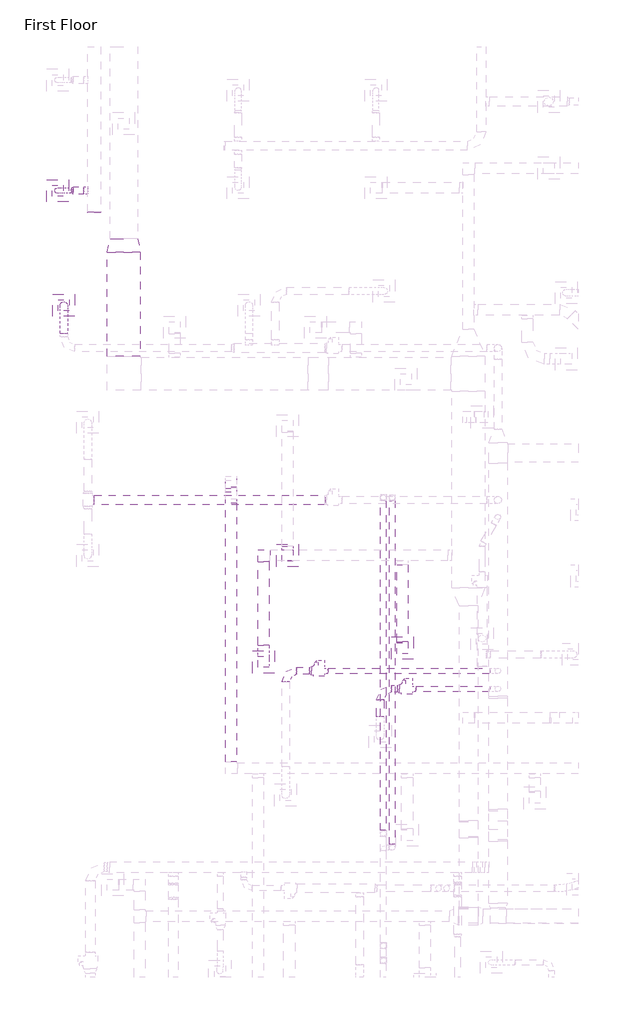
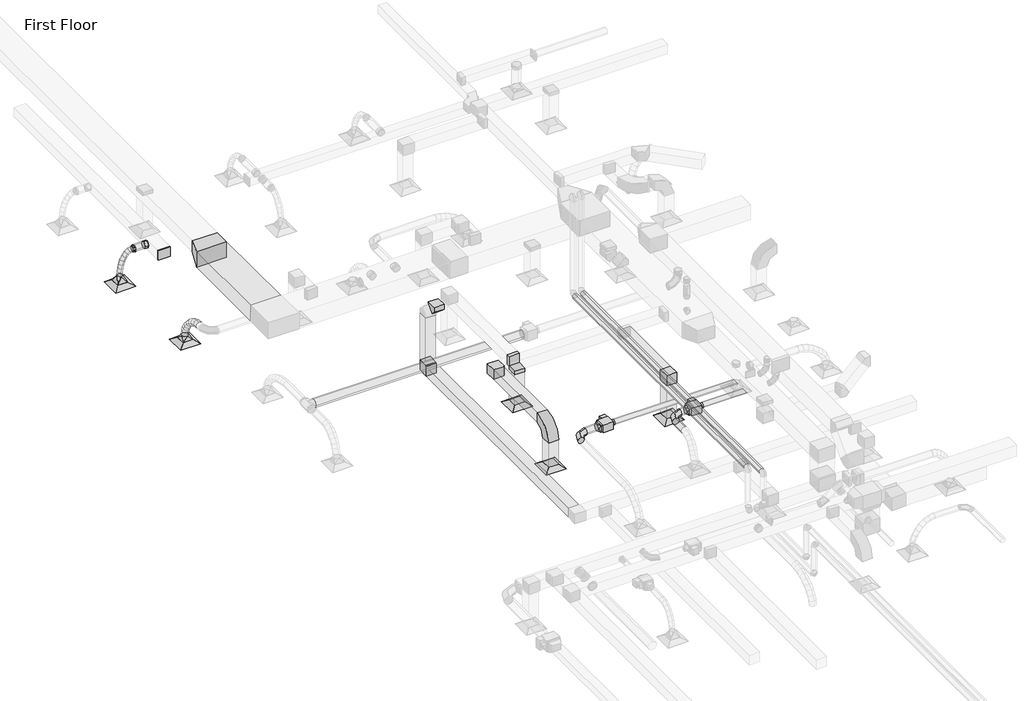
# One storey, part 10 of 61: 17 duct fittings, 17 duct segments, 5 air terminals, 2 pipe segments, 2 proxies.
"""IFC4 building model written with IfcOpenShell, lengths in millimetres."""

from ifc_helpers import new_model, si_unit, point, frame, frame_2d, origin, place, context, project, spatial, polyline, circle_curve, ellipse_curve, trimmed, segment, composite_curve, outline, extrude, transform, mapped, element, save
from ifc_brep_helpers import plane_surface, cylinder_surface, advanced_brep
from components import m_exhaust_grill_er_600_x_600_face_300_x_300_connection_ff221211, m_vav_unit_single_duct_150_mm_ffdab17b, m_rectangular_elbow_mitered_standard_b81e202c, m_rectangular_elbow_mitered_standard_8eee5933, m_rectangular_elbow_radius_1_5_w_86011e9f, m_rectangular_endcap_standard_7e805889, m_rectangular_takeoff_standard_c00386d1, m_rectangular_transition_angle_45_degree_70f4cc88, m_rectangular_to_round_transition_angle_45_degree_8f201c83, m_rectangular_to_round_transition_angle_45_degree_60daae35, m_rectangular_to_round_transition_angle_45_degree_1b7ae117, m_round_elbow_1_5_d_b7bc3624, m_round_takeoff_standard_8efdd074, m_round_transition_angle_45_degree_6d7b59ce

model = new_model("IFC4")

# Units and contexts
model_context = context("Model", 3, world=origin())
ifc_project = project(units=[si_unit("LENGTHUNIT", "METRE", prefix="MILLI")], contexts=[model_context])

# Site, building, storey
site = spatial("IfcSite", under=ifc_project)
building = spatial("IfcBuilding", under=site)
storey = spatial("IfcBuildingStorey", under=building, Name="First Floor", Elevation=0.0)

# Air terminals
placement = place(None, origin())
m_exhaust_grill_er_600_x_600_face_300_x_300_connection_shape = m_exhaust_grill_er_600_x_600_face_300_x_300_connection_ff221211(model_context)
element("IfcAirTerminal", 1, ObjectType="M_Return Register : RR-600 x 600 Face 300 x 300 Connection", at=placement, inside=storey, context=model_context, shape_type="MappedRepresentation", body=[
    mapped(m_exhaust_grill_er_600_x_600_face_300_x_300_connection_shape, transform((-44776.2515849, 20303.2476716, 2680.0), x_axis=(1.0, 0.0, 0.0), y_axis=(0.0, 1.0, 0.0), z_axis=(0.0, 0.0, 1.0))),
])
element("IfcAirTerminal", 2, ObjectType="M_Return Register : RR-600 x 600 Face 300 x 300 Connection", at=placement, inside=storey, context=model_context, shape_type="MappedRepresentation", body=[
    mapped(m_exhaust_grill_er_600_x_600_face_300_x_300_connection_shape, transform((-45425.1578689, 17419.1821686, 2680.0), x_axis=(1.0, 0.0, 0.0), y_axis=(0.0, 1.0, 0.0), z_axis=(0.0, 0.0, 1.0))),
])
element("IfcAirTerminal", 3, ObjectType="M_Return Register : RR-600 x 600 Face 300 x 300 Connection", at=placement, inside=storey, context=model_context, shape_type="MappedRepresentation", body=[
    mapped(m_exhaust_grill_er_600_x_600_face_300_x_300_connection_shape, transform((-41659.8030018, 17795.0056288, 2680.0), x_axis=(1.0, 0.0, 0.0), y_axis=(0.0, 1.0, 0.0), z_axis=(0.0, 0.0, 1.0))),
])
element("IfcAirTerminal", 4, ObjectType="M_Supply Diffuser : SD-600 x 600 Face 300 x 300 Connection", at=placement, inside=storey, context=model_context, shape_type="MappedRepresentation", body=[
    mapped(m_exhaust_grill_er_600_x_600_face_300_x_300_connection_shape, transform((-51005.4898522, 30186.5579591, 2680.0), x_axis=(1.0, 0.0, 0.0), y_axis=(0.0, 1.0, 0.0), z_axis=(0.0, 0.0, 1.0))),
])
element("IfcAirTerminal", 5, ObjectType="M_Supply Diffuser : SD-600 x 600 Face 300 x 300 Connection", at=placement, inside=storey, context=model_context, shape_type="MappedRepresentation", body=[
    mapped(m_exhaust_grill_er_600_x_600_face_300_x_300_connection_shape, transform((-50836.7847648, 27079.0052234, 2680.0), x_axis=(1.0, 0.0, 0.0), y_axis=(0.0, 1.0, 0.0), z_axis=(0.0, 0.0, 1.0))),
])

# Proxies
m_vav_unit_single_duct_150_mm_shape = m_vav_unit_single_duct_150_mm_ffdab17b(model_context)
element("IfcBuildingElementProxy", 6, Name="M_VAV Unit - Single Duct : 150 mm", ObjectType="M_VAV Unit - Single Duct : 150 mm", at=placement, inside=storey, context=model_context, shape_type="MappedRepresentation", body=[
    mapped(m_vav_unit_single_duct_150_mm_shape, transform((-43772.6638955, 17180.0260628, 3500.0), x_axis=(-1.0000000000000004, 0.0, 0.0), y_axis=(0.0, -1.0000000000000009, 0.0), z_axis=(0.0, 0.0, 1.0000000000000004))),
])
element("IfcBuildingElementProxy", 7, Name="M_VAV Unit - Single Duct : 150 mm", ObjectType="M_VAV Unit - Single Duct : 150 mm", at=placement, inside=storey, context=model_context, shape_type="MappedRepresentation", body=[
    mapped(m_vav_unit_single_duct_150_mm_shape, transform((-41391.0740322, 16692.7006721, 3500.0), x_axis=(-1.0, 0.0, 0.0), y_axis=(0.0, -1.0, 0.0), z_axis=(0.0, 0.0, 1.0))),
])

# Duct fittings
m_rectangular_elbow_mitered_standard_shape = m_rectangular_elbow_mitered_standard_b81e202c(model_context)
element("IfcDuctFitting", 8, ObjectType="M_Rectangular Elbow - Mitered : Standard", at=placement, inside=storey, context=model_context, shape_type="MappedRepresentation", body=[
    mapped(m_rectangular_elbow_mitered_standard_shape, transform((-46297.5612377, 21863.8569613, 5384.4160369), x_axis=(0.0, -0.7071067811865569, 0.7071067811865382), y_axis=(0.0, 0.7071067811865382, 0.7071067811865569), z_axis=(-1.0, 0.0, 0.0))),
])
m_rectangular_elbow_mitered_standard_2_shape = m_rectangular_elbow_mitered_standard_8eee5933(model_context)
element("IfcDuctFitting", 9, ObjectType="M_Rectangular Elbow - Mitered : Standard", at=placement, inside=storey, context=model_context, shape_type="MappedRepresentation", body=[
    mapped(m_rectangular_elbow_mitered_standard_2_shape, transform((-41659.8030018, 17795.0056288, 4000.0), x_axis=(0.0, 0.0, 1.0), y_axis=(0.0, 1.0, 0.0), z_axis=(-1.0, 0.0, 0.0))),
])
element("IfcDuctFitting", 10, ObjectType="M_Rectangular Elbow - Mitered : Standard", at=placement, inside=storey, context=model_context, shape_type="MappedRepresentation", body=[
    mapped(m_rectangular_elbow_mitered_standard_2_shape, transform((-45425.1578689, 20303.2476716, 4000.0), x_axis=(-1.0, 0.0, 0.0), y_axis=(0.0, -1.0, 0.0), z_axis=(0.0, 0.0, 1.0))),
])
element("IfcDuctFitting", 11, ObjectType="M_Rectangular Elbow - Mitered : Standard", at=placement, inside=storey, context=model_context, shape_type="MappedRepresentation", body=[
    mapped(m_rectangular_elbow_mitered_standard_2_shape, transform((-46297.5612377, 22294.3952, 3200.0), x_axis=(0.0, 1.0, 0.0), y_axis=(0.0, 0.0, 1.0), z_axis=(1.0, 0.0, 0.0))),
])
m_rectangular_elbow_radius_1_5_w_shape = m_rectangular_elbow_radius_1_5_w_86011e9f(model_context)
element("IfcDuctFitting", 12, ObjectType="M_Rectangular Elbow - Radius : 1.5 W", at=placement, inside=storey, context=model_context, shape_type="MappedRepresentation", body=[
    mapped(m_rectangular_elbow_radius_1_5_w_shape, transform((-45425.1578689, 17419.1821686, 4000.0), x_axis=(0.0, 0.0, 1.0), y_axis=(0.0, 1.0, 0.0), z_axis=(-1.0, 0.0, 0.0))),
])
m_rectangular_endcap_standard_shape = m_rectangular_endcap_standard_7e805889(model_context)
element("IfcDuctFitting", 13, ObjectType="M_Rectangular Endcap : Standard", at=placement, inside=storey, context=model_context, shape_type="MappedRepresentation", body=[
    mapped(m_rectangular_endcap_standard_shape, transform((-50017.7715879, 29612.2097424, 3669.0), x_axis=(0.0, -1.0, 0.0), y_axis=(1.0, 0.0, 0.0), z_axis=(0.0, 0.0, 1.0))),
])
m_rectangular_takeoff_standard_shape = m_rectangular_takeoff_standard_c00386d1(model_context)
element("IfcDuctFitting", 14, ObjectType="M_Rectangular Takeoff : Standard", at=placement, inside=storey, context=model_context, shape_type="MappedRepresentation", body=[
    mapped(m_rectangular_takeoff_standard_shape, transform((-44776.2515849, 20453.2476716, 4000.0), x_axis=(0.0, 1.0, 0.0), y_axis=(1.0, 0.0, 0.0), z_axis=(0.0, 0.0, -1.0))),
])
element("IfcDuctFitting", 15, ObjectType="M_Rectangular Takeoff : Standard", at=placement, inside=storey, context=model_context, shape_type="MappedRepresentation", body=[
    mapped(m_rectangular_takeoff_standard_shape, transform((-44776.2515849, 20303.2476716, 3850.0), x_axis=(0.0, 0.0, -1.0), y_axis=(1.0, 0.0, 0.0), z_axis=(0.0, -1.0, 0.0))),
])
m_rectangular_transition_angle_45_degree_shape = m_rectangular_transition_angle_45_degree_70f4cc88(model_context)
element("IfcDuctFitting", 16, ObjectType="M_Rectangular Transition - Angle : 45 Degree", at=placement, inside=storey, context=model_context, shape_type="MappedRepresentation", body=[
    mapped(m_rectangular_transition_angle_45_degree_shape, transform((-49210.6837723, 28883.0983956, 4167.610768), x_axis=(0.0, -1.0, 0.0), y_axis=(1.0, 0.0, 0.0), z_axis=(0.0, 0.0, 1.0))),
])
m_rectangular_to_round_transition_angle_45_degree_shape = m_rectangular_to_round_transition_angle_45_degree_8f201c83(model_context)
element("IfcDuctFitting", 17, ObjectType="M_Rectangular to Round Transition - Angle : 45 Degree", at=placement, inside=storey, context=model_context, shape_type="MappedRepresentation", body=[
    mapped(m_rectangular_to_round_transition_angle_45_degree_shape, transform((-51005.4898522, 30186.5579591, 2781.6), x_axis=(0.0, 0.0, 1.0), y_axis=(1.0, 0.0, 0.0), z_axis=(0.0, 1.0, 0.0))),
])
m_rectangular_to_round_transition_angle_45_degree_2_shape = m_rectangular_to_round_transition_angle_45_degree_60daae35(model_context)
element("IfcDuctFitting", 18, ObjectType="M_Rectangular to Round Transition - Angle : 45 Degree", at=placement, inside=storey, context=model_context, shape_type="MappedRepresentation", body=[
    mapped(m_rectangular_to_round_transition_angle_45_degree_2_shape, transform((-50836.7847648, 27079.0052234, 2781.6), x_axis=(0.0, 0.0, 1.0), y_axis=(1.0, 0.0, 0.0), z_axis=(0.0, 1.0, 0.0))),
])
m_rectangular_to_round_transition_angle_45_degree_3_shape = m_rectangular_to_round_transition_angle_45_degree_1b7ae117(model_context)
element("IfcDuctFitting", 19, ObjectType="M_Rectangular to Round Transition - Angle : 45 Degree", at=placement, inside=storey, context=model_context, shape_type="MappedRepresentation", body=[
    mapped(m_rectangular_to_round_transition_angle_45_degree_3_shape, transform((-44115.4638955, 17180.0260628, 3619.05), x_axis=(-1.0, 0.0, 0.0), y_axis=(0.0, -1.0, 0.0), z_axis=(0.0, 0.0, 1.0))),
])
element("IfcDuctFitting", 20, ObjectType="M_Rectangular to Round Transition - Angle : 45 Degree", at=placement, inside=storey, context=model_context, shape_type="MappedRepresentation", body=[
    mapped(m_rectangular_to_round_transition_angle_45_degree_3_shape, transform((-41733.8740322, 16692.7006721, 3619.05), x_axis=(-1.0, 0.0, 0.0), y_axis=(0.0, -1.0, 0.0), z_axis=(0.0, 0.0, 1.0))),
])
m_round_elbow_1_5_d_shape = m_round_elbow_1_5_d_b7bc3624(model_context)
element("IfcDuctFitting", 21, ObjectType="M_Round Elbow : 1.5 D", at=placement, inside=storey, context=model_context, shape_type="MappedRepresentation", body=[
    mapped(m_round_elbow_1_5_d_shape, transform((-44824.0, 17180.0260628, 3619.1), x_axis=(-1.0, 0.0, 0.0), y_axis=(0.0, -1.0, 0.0), z_axis=(0.0, 0.0, 1.0))),
])
element("IfcDuctFitting", 22, ObjectType="M_Round Elbow : 1.5 D", at=placement, inside=storey, context=model_context, shape_type="MappedRepresentation", body=[
    mapped(m_round_elbow_1_5_d_shape, transform((-42258.150392, 16692.7006721, 3619.1), x_axis=(-1.0, 0.0, 0.0), y_axis=(0.0, -1.0, 0.0), z_axis=(0.0, 0.0, 1.0))),
])
m_round_takeoff_standard_shape = m_round_takeoff_standard_8efdd074(model_context)
element("IfcDuctFitting", 23, ObjectType="M_Round Takeoff : Standard", at=placement, inside=storey, context=model_context, shape_type="MappedRepresentation", body=[
    mapped(m_round_takeoff_standard_shape, transform((-50192.7715879, 30186.5579591, 3669.0), x_axis=(-1.0, 0.0, 0.0), y_axis=(0.0, 1.0, 0.0), z_axis=(0.0, 0.0, -1.0))),
])
m_round_transition_angle_45_degree_shape = m_round_transition_angle_45_degree_6d7b59ce(model_context)
element("IfcDuctFitting", 24, ObjectType="M_Round Transition - Angle : 45 Degree", at=placement, inside=storey, context=model_context, shape_type="MappedRepresentation", body=[
    mapped(m_round_transition_angle_45_degree_shape, transform((-50577.7715879, 30186.5579591, 3669.0), x_axis=(-1.0, 0.0, 0.0), y_axis=(0.0, -1.0, 0.0), z_axis=(0.0, 0.0, 1.0))),
])

# Duct segments
element("IfcDuctSegment", 25, ObjectType="Flex - Round", at=placement, inside=storey, context=model_context, shape_type="AdvancedBrep", body=[
    advanced_brep(
    [(-50638.1269269, 30111.5579591, 3669.0), (-50622.5988368, 30186.5579591, 3595.6250832), (-50638.1269269, 30261.5579591, 3669.0), (-50653.6550171, 30186.5579591, 3742.3749168), (-50730.1066, 30111.5579591, 3649.534647), (-50699.816517, 30186.5579591, 3579.2837618), (-50730.1066, 30261.5579591, 3649.534647), (-50760.396683, 30186.5579591, 3719.7855323), (-51005.4898522, 30111.5579591, 2962.6660172), (-51080.4106561, 30186.5579591, 2966.1117609), (-51005.4898522, 30261.5579591, 2962.6660172), (-50930.5690484, 30186.5579591, 2959.2202734), (-50807.4867189, 30111.5579591, 3595.9550935), (-50755.5635893, 30186.5579591, 3540.6833656), (-50807.4867189, 30261.5579591, 3595.9550935), (-50859.4098485, 30186.5579591, 3651.2268213), (-50870.9871597, 30111.5579591, 3515.4860975), (-50807.3967874, 30186.5579591, 3474.9993269), (-50870.9871597, 30261.5579591, 3515.4860975), (-50934.5775319, 30186.5579591, 3555.9728682), (-50921.3277983, 30111.5579591, 3415.3524174), (-50851.9389807, 30186.5579591, 3386.3994629), (-50921.3277983, 30261.5579591, 3415.3524174), (-50990.7166159, 30186.5579591, 3444.3053719), (-50959.2285109, 30111.5579591, 3302.7788111), (-50886.8788124, 30186.5579591, 3282.6203363), (-50959.2285109, 30261.5579591, 3302.7788111), (-51031.5782095, 30186.5579591, 3322.9372858), (-50985.4091734, 30111.5579591, 3184.9900369), (-50911.4766047, 30186.5579591, 3171.9530141), (-50985.4091734, 30261.5579591, 3184.9900369), (-51059.3417421, 30186.5579591, 3198.0270596), (-51000.5896619, 30111.5579591, 3069.2108528), (-50925.8143768, 30186.5579591, 3062.6010948), (-51000.5896619, 30261.5579591, 3069.2108528), (-51075.3649469, 30186.5579591, 3075.8206109)],
    [
        (0, 1, circle_curve(frame((-50638.1269269, 30186.5579591, 3669.0), z_axis=(0.9783322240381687, 0.0, 0.20704120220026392), x_axis=(0.0, -1.0, 0.0)), 75.0)),
        (1, 2, circle_curve(frame((-50638.1269269, 30186.5579591, 3669.0), z_axis=(0.9783322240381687, 0.0, 0.20704120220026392), x_axis=(0.0, -1.0, 0.0)), 75.0)),
        (2, 3, circle_curve(frame((-50638.1269269, 30186.5579591, 3669.0), z_axis=(0.9783322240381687, 0.0, 0.20704120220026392), x_axis=(0.0, -1.0, 0.0)), 75.0)),
        (3, 0, circle_curve(frame((-50638.1269269, 30186.5579591, 3669.0), z_axis=(0.9783322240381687, 0.0, 0.20704120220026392), x_axis=(0.0, -1.0, 0.0)), 75.0)),
        (0, 4),
        (4, 5, ellipse_curve(frame((-50730.1066, 30186.5579591, 3649.534647), z_axis=(0.9182788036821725, 0.0, 0.3959343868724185), x_axis=(0.3959343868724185, 0.0, -0.9182788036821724)), 76.5027843, 75.0)),
        (5, 1),
        (5, 6, ellipse_curve(frame((-50730.1066, 30186.5579591, 3649.534647), z_axis=(0.9182788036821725, 0.0, 0.3959343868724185), x_axis=(0.3959343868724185, 0.0, -0.9182788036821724)), 76.5027843, 75.0)),
        (6, 2),
        (6, 7, ellipse_curve(frame((-50730.1066, 30186.5579591, 3649.534647), z_axis=(0.9182788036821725, 0.0, 0.3959343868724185), x_axis=(0.3959343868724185, 0.0, -0.9182788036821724)), 76.5027843, 75.0)),
        (7, 3),
        (7, 4, ellipse_curve(frame((-50730.1066, 30186.5579591, 3649.534647), z_axis=(0.9182788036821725, 0.0, 0.3959343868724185), x_axis=(0.3959343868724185, 0.0, -0.9182788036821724)), 76.5027843, 75.0)),
        (8, 9, circle_curve(frame((-51005.4898522, 30186.5579591, 2962.6660172), z_axis=(-0.04594324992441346, 0.0, -0.9989440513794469), x_axis=(0.0, -1.0, 0.0)), 75.0)),
        (9, 10, circle_curve(frame((-51005.4898522, 30186.5579591, 2962.6660172), z_axis=(-0.04594324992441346, 0.0, -0.9989440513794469), x_axis=(0.0, -1.0, 0.0)), 75.0)),
        (10, 11, circle_curve(frame((-51005.4898522, 30186.5579591, 2962.6660172), z_axis=(-0.04594324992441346, 0.0, -0.9989440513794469), x_axis=(0.0, -1.0, 0.0)), 75.0)),
        (11, 8, circle_curve(frame((-51005.4898522, 30186.5579591, 2962.6660172), z_axis=(-0.04594324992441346, 0.0, -0.9989440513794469), x_axis=(0.0, -1.0, 0.0)), 75.0)),
        (4, 12),
        (12, 13, ellipse_curve(frame((-50807.4867189, 30186.5579591, 3595.9550935), z_axis=(0.7288401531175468, 0.0, 0.684683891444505), x_axis=(0.6846838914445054, 0.0, -0.7288401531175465)), 75.835185, 75.0)),
        (13, 5),
        (13, 14, ellipse_curve(frame((-50807.4867189, 30186.5579591, 3595.9550935), z_axis=(0.7288401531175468, 0.0, 0.684683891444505), x_axis=(0.6846838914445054, 0.0, -0.7288401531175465)), 75.835185, 75.0)),
        (14, 6),
        (14, 15, ellipse_curve(frame((-50807.4867189, 30186.5579591, 3595.9550935), z_axis=(0.7288401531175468, 0.0, 0.684683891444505), x_axis=(0.6846838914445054, 0.0, -0.7288401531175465)), 75.835185, 75.0)),
        (15, 7),
        (15, 12, ellipse_curve(frame((-50807.4867189, 30186.5579591, 3595.9550935), z_axis=(0.7288401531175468, 0.0, 0.684683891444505), x_axis=(0.6846838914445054, 0.0, -0.7288401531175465)), 75.835185, 75.0)),
        (12, 16),
        (16, 17, ellipse_curve(frame((-50870.9871597, 30186.5579591, 3515.4860975), z_axis=(0.5370659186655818, 0.0, 0.8435402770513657), x_axis=(0.8435402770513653, 0.0, -0.5370659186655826)), 75.3851049, 75.0)),
        (17, 13),
        (17, 18, ellipse_curve(frame((-50870.9871597, 30186.5579591, 3515.4860975), z_axis=(0.5370659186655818, 0.0, 0.8435402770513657), x_axis=(0.8435402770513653, 0.0, -0.5370659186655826)), 75.3851049, 75.0)),
        (18, 14),
        (18, 19, ellipse_curve(frame((-50870.9871597, 30186.5579591, 3515.4860975), z_axis=(0.5370659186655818, 0.0, 0.8435402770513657), x_axis=(0.8435402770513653, 0.0, -0.5370659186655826)), 75.3851049, 75.0)),
        (19, 15),
        (19, 16, ellipse_curve(frame((-50870.9871597, 30186.5579591, 3515.4860975), z_axis=(0.5370659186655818, 0.0, 0.8435402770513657), x_axis=(0.8435402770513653, 0.0, -0.5370659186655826)), 75.3851049, 75.0)),
        (16, 20),
        (20, 21, ellipse_curve(frame((-50921.3277983, 30186.5579591, 3415.3524174), z_axis=(0.3850793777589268, 0.0, 0.9228834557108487), x_axis=(0.9228834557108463, 0.0, -0.38507937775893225)), 75.1869775, 75.0)),
        (21, 17),
        (21, 22, ellipse_curve(frame((-50921.3277983, 30186.5579591, 3415.3524174), z_axis=(0.3850793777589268, 0.0, 0.9228834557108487), x_axis=(0.9228834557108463, 0.0, -0.38507937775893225)), 75.1869775, 75.0)),
        (22, 18),
        (22, 23, ellipse_curve(frame((-50921.3277983, 30186.5579591, 3415.3524174), z_axis=(0.3850793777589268, 0.0, 0.9228834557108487), x_axis=(0.9228834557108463, 0.0, -0.38507937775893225)), 75.1869775, 75.0)),
        (23, 19),
        (23, 20, ellipse_curve(frame((-50921.3277983, 30186.5579591, 3415.3524174), z_axis=(0.3850793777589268, 0.0, 0.9228834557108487), x_axis=(0.9228834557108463, 0.0, -0.38507937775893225)), 75.1869775, 75.0)),
        (20, 24),
        (24, 25, ellipse_curve(frame((-50959.2285109, 30186.5579591, 3302.7788111), z_axis=(0.26840194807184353, 0.0, 0.9633070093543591), x_axis=(0.9633070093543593, 0.0, -0.26840194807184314)), 75.1055456, 75.0)),
        (25, 21),
        (25, 26, ellipse_curve(frame((-50959.2285109, 30186.5579591, 3302.7788111), z_axis=(0.26840194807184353, 0.0, 0.9633070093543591), x_axis=(0.9633070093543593, 0.0, -0.26840194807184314)), 75.1055456, 75.0)),
        (26, 22),
        (26, 27, ellipse_curve(frame((-50959.2285109, 30186.5579591, 3302.7788111), z_axis=(0.26840194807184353, 0.0, 0.9633070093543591), x_axis=(0.9633070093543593, 0.0, -0.26840194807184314)), 75.1055456, 75.0)),
        (27, 23),
        (27, 24, ellipse_curve(frame((-50959.2285109, 30186.5579591, 3302.7788111), z_axis=(0.26840194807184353, 0.0, 0.9633070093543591), x_axis=(0.9633070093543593, 0.0, -0.26840194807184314)), 75.1055456, 75.0)),
        (24, 28),
        (28, 29, ellipse_curve(frame((-50985.4091734, 30186.5579591, 3184.9900369), z_axis=(0.17365742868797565, 0.0, 0.9848061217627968), x_axis=(0.9848061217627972, 0.0, -0.1736574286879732)), 75.0732221, 75.0)),
        (29, 25),
        (29, 30, ellipse_curve(frame((-50985.4091734, 30186.5579591, 3184.9900369), z_axis=(0.17365742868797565, 0.0, 0.9848061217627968), x_axis=(0.9848061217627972, 0.0, -0.1736574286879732)), 75.0732221, 75.0)),
        (30, 26),
        (30, 31, ellipse_curve(frame((-50985.4091734, 30186.5579591, 3184.9900369), z_axis=(0.17365742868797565, 0.0, 0.9848061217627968), x_axis=(0.9848061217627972, 0.0, -0.1736574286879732)), 75.0732221, 75.0)),
        (31, 27),
        (31, 28, ellipse_curve(frame((-50985.4091734, 30186.5579591, 3184.9900369), z_axis=(0.17365742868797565, 0.0, 0.9848061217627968), x_axis=(0.9848061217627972, 0.0, -0.1736574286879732)), 75.0732221, 75.0)),
        (28, 32),
        (32, 33, ellipse_curve(frame((-51000.5896619, 30186.5579591, 3069.2108528), z_axis=(0.08805162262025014, 0.0, 0.996115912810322), x_axis=(0.9961159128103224, 0.0, -0.08805162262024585)), 75.0668513, 75.0)),
        (33, 29),
        (33, 34, ellipse_curve(frame((-51000.5896619, 30186.5579591, 3069.2108528), z_axis=(0.08805162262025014, 0.0, 0.996115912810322), x_axis=(0.9961159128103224, 0.0, -0.08805162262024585)), 75.0668513, 75.0)),
        (34, 30),
        (34, 35, ellipse_curve(frame((-51000.5896619, 30186.5579591, 3069.2108528), z_axis=(0.08805162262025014, 0.0, 0.996115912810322), x_axis=(0.9961159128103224, 0.0, -0.08805162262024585)), 75.0668513, 75.0)),
        (35, 31),
        (35, 32, ellipse_curve(frame((-51000.5896619, 30186.5579591, 3069.2108528), z_axis=(0.08805162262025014, 0.0, 0.996115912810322), x_axis=(0.9961159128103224, 0.0, -0.08805162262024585)), 75.0668513, 75.0)),
        (32, 8),
        (11, 33),
        (10, 34),
        (9, 35),
    ],
    [
        plane_surface(frame((-50638.1269269, 30261.5579591, 3669.0), z_axis=(0.9783322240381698, 0.0, 0.20704120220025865), x_axis=(0.20704120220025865, 0.0, -0.9783322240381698))),
        cylinder_surface(frame((-50638.1269269, 30186.5579591, 3669.0), z_axis=(0.9783322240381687, 0.0, 0.20704120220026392), x_axis=(0.0, -1.0, 0.0)), 75.0),
        plane_surface(frame((-51005.4898522, 30261.5579591, 2962.6660172), z_axis=(-0.04594324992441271, 0.0, -0.998944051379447), x_axis=(0.998944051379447, 0.0, -0.04594324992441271))),
        cylinder_surface(frame((-50730.1066, 30186.5579591, 3649.534647), z_axis=(0.8221489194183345, 0.0, 0.5692724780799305), x_axis=(0.0, -1.0, 0.0)), 75.0),
        cylinder_surface(frame((-50807.4867189, 30186.5579591, 3595.9550935), z_axis=(0.619477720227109, 0.0, 0.7850142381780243), x_axis=(0.0, -1.0, 0.0)), 75.0),
        cylinder_surface(frame((-50870.9871597, 30186.5579591, 3515.4860975), z_axis=(0.4491669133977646, 0.0, 0.8934478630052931), x_axis=(0.0, -1.0, 0.0)), 75.0),
        cylinder_surface(frame((-50921.3277983, 30186.5579591, 3415.3524174), z_axis=(0.31907658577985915, 0.0, 0.947728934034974), x_axis=(0.0, -1.0, 0.0)), 75.0),
        cylinder_surface(frame((-50959.2285109, 30186.5579591, 3302.7788111), z_axis=(0.21697294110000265, 0.0, 0.9761776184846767), x_axis=(0.0, -1.0, 0.0)), 75.0),
        cylinder_surface(frame((-50985.4091734, 30186.5579591, 3184.9900369), z_axis=(0.1300031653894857, 0.0, 0.9915135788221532), x_axis=(0.0, -1.0, 0.0)), 75.0),
        cylinder_surface(frame((-51000.5896619, 30186.5579591, 3069.2108528), z_axis=(0.04594324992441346, 0.0, 0.9989440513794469), x_axis=(0.0, -1.0, 0.0)), 75.0),
    ],
    [
        (0, [[1, 2, 3, 4]]),
        (1, [[-1, 5, 6, 7]]),
        (1, [[-2, -7, 8, 9]]),
        (1, [[-3, -9, 10, 11]]),
        (1, [[-4, -11, 12, -5]]),
        (2, [[13, 14, 15, 16]]),
        (3, [[-6, 17, 18, 19]]),
        (3, [[-8, -19, 20, 21]]),
        (3, [[-10, -21, 22, 23]]),
        (3, [[-12, -23, 24, -17]]),
        (4, [[-18, 25, 26, 27]]),
        (4, [[-20, -27, 28, 29]]),
        (4, [[-22, -29, 30, 31]]),
        (4, [[-24, -31, 32, -25]]),
        (5, [[-26, 33, 34, 35]]),
        (5, [[-28, -35, 36, 37]]),
        (5, [[-30, -37, 38, 39]]),
        (5, [[-32, -39, 40, -33]]),
        (6, [[-34, 41, 42, 43]]),
        (6, [[-36, -43, 44, 45]]),
        (6, [[-38, -45, 46, 47]]),
        (6, [[-40, -47, 48, -41]]),
        (7, [[-42, 49, 50, 51]]),
        (7, [[-44, -51, 52, 53]]),
        (7, [[-46, -53, 54, 55]]),
        (7, [[-48, -55, 56, -49]]),
        (8, [[-50, 57, 58, 59]]),
        (8, [[-52, -59, 60, 61]]),
        (8, [[-54, -61, 62, 63]]),
        (8, [[-56, -63, 64, -57]]),
        (9, [[-58, 65, -16, 66]]),
        (9, [[-60, -66, -15, 67]]),
        (9, [[-62, -67, -14, 68]]),
        (9, [[-64, -68, -13, -65]]),
    ],
),
])
element("IfcDuctSegment", 26, ObjectType="Flex - Round", at=placement, inside=storey, context=model_context, shape_type="AdvancedBrep", body=[
    advanced_brep(
    [(-50936.7847648, 26319.5713832, 3644.1), (-50836.7847648, 26306.7454039, 3544.9259396), (-50736.7847648, 26319.5713832, 3644.1), (-50836.7847648, 26332.3973625, 3743.2740604), (-50936.7847648, 26453.8015901, 3626.7402807), (-50836.7847648, 26429.9621786, 3528.990565), (-50736.7847648, 26453.8015901, 3626.7402807), (-50836.7847648, 26477.6410015, 3724.4899963), (-50936.7847648, 27079.0052234, 2902.3106781), (-50836.7847648, 27178.0964564, 2915.7616094), (-50736.7847648, 27079.0052234, 2902.3106781), (-50836.7847648, 26979.9139905, 2888.8597468), (-50936.7847648, 26587.5201952, 3577.9578433), (-50836.7847648, 26544.6645617, 3487.1455143), (-50736.7847648, 26587.5201952, 3577.9578433), (-50836.7847648, 26630.3758288, 3668.7701723), (-50936.7847648, 26715.3685743, 3502.697769), (-50836.7847648, 26657.6990065, 3420.6059087), (-50736.7847648, 26715.3685743, 3502.697769), (-50836.7847648, 26773.0381421, 3584.7896292), (-50936.7847648, 26831.9881029, 3405.9051386), (-50836.7847648, 26762.1423086, 3333.9193815), (-50736.7847648, 26831.9881029, 3405.9051386), (-50836.7847648, 26901.8338971, 3477.8908957), (-50936.7847648, 26932.0201565, 3292.5250334), (-50836.7847648, 26851.5748291, 3232.5531871), (-50736.7847648, 26932.0201565, 3292.5250334), (-50836.7847648, 27012.4654838, 3352.4968796), (-50936.7847648, 27010.1061107, 3167.5025342), (-50836.7847648, 26920.2335985, 3122.6244424), (-50736.7847648, 27010.1061107, 3167.5025342), (-50836.7847648, 27099.978623, 3212.380626), (-50936.7847648, 27060.8873412, 3035.7827221), (-50836.7847648, 26963.3705929, 3010.7327699), (-50736.7847648, 27060.8873412, 3035.7827221), (-50836.7847648, 27158.4040894, 3060.8326743)],
    [
        (0, 1, circle_curve(frame((-50836.7847648, 26319.5713832, 3644.1), z_axis=(0.0, -0.99174060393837, 0.12825979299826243), x_axis=(-1.0, 0.0, 0.0)), 100.0)),
        (1, 2, circle_curve(frame((-50836.7847648, 26319.5713832, 3644.1), z_axis=(0.0, -0.99174060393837, 0.12825979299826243), x_axis=(-1.0, 0.0, 0.0)), 100.0)),
        (2, 3, circle_curve(frame((-50836.7847648, 26319.5713832, 3644.1), z_axis=(0.0, -0.99174060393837, 0.12825979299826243), x_axis=(-1.0, 0.0, 0.0)), 100.0)),
        (3, 0, circle_curve(frame((-50836.7847648, 26319.5713832, 3644.1), z_axis=(0.0, -0.99174060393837, 0.12825979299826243), x_axis=(-1.0, 0.0, 0.0)), 100.0)),
        (0, 4),
        (4, 5, ellipse_curve(frame((-50836.7847648, 26453.8015901, 3626.7402807), z_axis=(0.0, -0.9715248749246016, 0.23693758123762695), x_axis=(0.0, -0.2369375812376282, -0.9715248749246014)), 100.6147327, 100.0)),
        (5, 1),
        (5, 6, ellipse_curve(frame((-50836.7847648, 26453.8015901, 3626.7402807), z_axis=(0.0, -0.9715248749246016, 0.23693758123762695), x_axis=(0.0, -0.2369375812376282, -0.9715248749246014)), 100.6147327, 100.0)),
        (6, 2),
        (6, 7, ellipse_curve(frame((-50836.7847648, 26453.8015901, 3626.7402807), z_axis=(0.0, -0.9715248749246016, 0.23693758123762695), x_axis=(0.0, -0.2369375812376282, -0.9715248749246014)), 100.6147327, 100.0)),
        (7, 3),
        (7, 4, ellipse_curve(frame((-50836.7847648, 26453.8015901, 3626.7402807), z_axis=(0.0, -0.9715248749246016, 0.23693758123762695), x_axis=(0.0, -0.2369375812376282, -0.9715248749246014)), 100.6147327, 100.0)),
        (8, 9, circle_curve(frame((-50836.7847648, 27079.0052234, 2902.3106781), z_axis=(0.0, 0.13450931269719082, -0.9909123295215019), x_axis=(-1.0, 0.0, 0.0)), 100.0)),
        (9, 10, circle_curve(frame((-50836.7847648, 27079.0052234, 2902.3106781), z_axis=(0.0, 0.13450931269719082, -0.9909123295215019), x_axis=(-1.0, 0.0, 0.0)), 100.0)),
        (10, 11, circle_curve(frame((-50836.7847648, 27079.0052234, 2902.3106781), z_axis=(0.0, 0.13450931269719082, -0.9909123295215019), x_axis=(-1.0, 0.0, 0.0)), 100.0)),
        (11, 8, circle_curve(frame((-50836.7847648, 27079.0052234, 2902.3106781), z_axis=(0.0, 0.13450931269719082, -0.9909123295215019), x_axis=(-1.0, 0.0, 0.0)), 100.0)),
        (4, 12),
        (12, 13, ellipse_curve(frame((-50836.7847648, 26587.5201952, 3577.9578433), z_axis=(0.0, -0.9043561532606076, 0.4267785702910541), x_axis=(0.0, -0.42677857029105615, -0.9043561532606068)), 100.4165545, 100.0)),
        (13, 5),
        (13, 14, ellipse_curve(frame((-50836.7847648, 26587.5201952, 3577.9578433), z_axis=(0.0, -0.9043561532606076, 0.4267785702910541), x_axis=(0.0, -0.42677857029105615, -0.9043561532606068)), 100.4165545, 100.0)),
        (14, 6),
        (14, 15, ellipse_curve(frame((-50836.7847648, 26587.5201952, 3577.9578433), z_axis=(0.0, -0.9043561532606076, 0.4267785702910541), x_axis=(0.0, -0.42677857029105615, -0.9043561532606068)), 100.4165545, 100.0)),
        (15, 7),
        (15, 12, ellipse_curve(frame((-50836.7847648, 26587.5201952, 3577.9578433), z_axis=(0.0, -0.9043561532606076, 0.4267785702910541), x_axis=(0.0, -0.42677857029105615, -0.9043561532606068)), 100.4165545, 100.0)),
        (12, 16),
        (16, 17, ellipse_curve(frame((-50836.7847648, 26715.3685743, 3502.697769), z_axis=(0.0, -0.8182695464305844, 0.5748347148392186), x_axis=(0.0, -0.5748347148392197, -0.8182695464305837)), 100.3237388, 100.0)),
        (17, 13),
        (17, 18, ellipse_curve(frame((-50836.7847648, 26715.3685743, 3502.697769), z_axis=(0.0, -0.8182695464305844, 0.5748347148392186), x_axis=(0.0, -0.5748347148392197, -0.8182695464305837)), 100.3237388, 100.0)),
        (18, 14),
        (18, 19, ellipse_curve(frame((-50836.7847648, 26715.3685743, 3502.697769), z_axis=(0.0, -0.8182695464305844, 0.5748347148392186), x_axis=(0.0, -0.5748347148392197, -0.8182695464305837)), 100.3237388, 100.0)),
        (19, 15),
        (19, 16, ellipse_curve(frame((-50836.7847648, 26715.3685743, 3502.697769), z_axis=(0.0, -0.8182695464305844, 0.5748347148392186), x_axis=(0.0, -0.5748347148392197, -0.8182695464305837)), 100.3237388, 100.0)),
        (16, 20),
        (20, 21, ellipse_curve(frame((-50836.7847648, 26831.9881029, 3405.9051386), z_axis=(0.0, -0.7176939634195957, 0.6963586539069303), x_axis=(0.0, -0.696358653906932, -0.717693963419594)), 100.3014666, 100.0)),
        (21, 17),
        (21, 22, ellipse_curve(frame((-50836.7847648, 26831.9881029, 3405.9051386), z_axis=(0.0, -0.7176939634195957, 0.6963586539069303), x_axis=(0.0, -0.696358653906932, -0.717693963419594)), 100.3014666, 100.0)),
        (22, 18),
        (22, 23, ellipse_curve(frame((-50836.7847648, 26831.9881029, 3405.9051386), z_axis=(0.0, -0.7176939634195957, 0.6963586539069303), x_axis=(0.0, -0.696358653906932, -0.717693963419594)), 100.3014666, 100.0)),
        (23, 19),
        (23, 20, ellipse_curve(frame((-50836.7847648, 26831.9881029, 3405.9051386), z_axis=(0.0, -0.7176939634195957, 0.6963586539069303), x_axis=(0.0, -0.696358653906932, -0.717693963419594)), 100.3014666, 100.0)),
        (20, 24),
        (24, 25, ellipse_curve(frame((-50836.7847648, 26932.0201565, 3292.5250334), z_axis=(0.0, -0.5976875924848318, 0.8017290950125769), x_axis=(0.0, -0.8017290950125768, -0.5976875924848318)), 100.3397879, 100.0)),
        (25, 21),
        (25, 26, ellipse_curve(frame((-50836.7847648, 26932.0201565, 3292.5250334), z_axis=(0.0, -0.5976875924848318, 0.8017290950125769), x_axis=(0.0, -0.8017290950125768, -0.5976875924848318)), 100.3397879, 100.0)),
        (26, 22),
        (26, 27, ellipse_curve(frame((-50836.7847648, 26932.0201565, 3292.5250334), z_axis=(0.0, -0.5976875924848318, 0.8017290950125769), x_axis=(0.0, -0.8017290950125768, -0.5976875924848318)), 100.3397879, 100.0)),
        (27, 23),
        (27, 24, ellipse_curve(frame((-50836.7847648, 26932.0201565, 3292.5250334), z_axis=(0.0, -0.5976875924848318, 0.8017290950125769), x_axis=(0.0, -0.8017290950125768, -0.5976875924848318)), 100.3397879, 100.0)),
        (24, 28),
        (28, 29, ellipse_curve(frame((-50836.7847648, 27010.1061107, 3167.5025342), z_axis=(0.0, -0.44675032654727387, 0.8946586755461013), x_axis=(0.0, -0.8946586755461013, -0.44675032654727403)), 100.4545249, 100.0)),
        (29, 25),
        (29, 30, ellipse_curve(frame((-50836.7847648, 27010.1061107, 3167.5025342), z_axis=(0.0, -0.44675032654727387, 0.8946586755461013), x_axis=(0.0, -0.8946586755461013, -0.44675032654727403)), 100.4545249, 100.0)),
        (30, 26),
        (30, 31, ellipse_curve(frame((-50836.7847648, 27010.1061107, 3167.5025342), z_axis=(0.0, -0.44675032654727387, 0.8946586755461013), x_axis=(0.0, -0.8946586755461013, -0.44675032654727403)), 100.4545249, 100.0)),
        (31, 27),
        (31, 28, ellipse_curve(frame((-50836.7847648, 27010.1061107, 3167.5025342), z_axis=(0.0, -0.44675032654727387, 0.8946586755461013), x_axis=(0.0, -0.8946586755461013, -0.44675032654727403)), 100.4545249, 100.0)),
        (28, 32),
        (32, 33, ellipse_curve(frame((-50836.7847648, 27060.8873412, 3035.7827221), z_axis=(0.0, -0.24880083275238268, 0.9685546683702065), x_axis=(0.0, -0.968554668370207, -0.24880083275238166)), 100.6827507, 100.0)),
        (33, 29),
        (33, 34, ellipse_curve(frame((-50836.7847648, 27060.8873412, 3035.7827221), z_axis=(0.0, -0.24880083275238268, 0.9685546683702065), x_axis=(0.0, -0.968554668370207, -0.24880083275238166)), 100.6827507, 100.0)),
        (34, 30),
        (34, 35, ellipse_curve(frame((-50836.7847648, 27060.8873412, 3035.7827221), z_axis=(0.0, -0.24880083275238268, 0.9685546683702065), x_axis=(0.0, -0.968554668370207, -0.24880083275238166)), 100.6827507, 100.0)),
        (35, 31),
        (35, 32, ellipse_curve(frame((-50836.7847648, 27060.8873412, 3035.7827221), z_axis=(0.0, -0.24880083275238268, 0.9685546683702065), x_axis=(0.0, -0.968554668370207, -0.24880083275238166)), 100.6827507, 100.0)),
        (32, 8),
        (11, 33),
        (10, 34),
        (9, 35),
    ],
    [
        plane_surface(frame((-50836.7847648, 26332.3973625, 3743.2740604), z_axis=(0.0, -0.9917406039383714, 0.12825979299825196), x_axis=(1.0, 0.0, 0.0))),
        cylinder_surface(frame((-50836.7847648, 26319.5713832, 3644.1), z_axis=(0.0, -0.99174060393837, 0.12825979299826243), x_axis=(-1.0, 0.0, 0.0)), 100.0),
        plane_surface(frame((-50836.7847648, 27178.0964564, 2915.7616094), z_axis=(0.0, 0.1345093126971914, -0.9909123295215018), x_axis=(1.0, 0.0, 0.0))),
        cylinder_surface(frame((-50836.7847648, 26453.8015901, 3626.7402807), z_axis=(0.0, -0.9394375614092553, 0.34272010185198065), x_axis=(-1.0, 0.0, 0.0)), 100.0),
        cylinder_surface(frame((-50836.7847648, 26587.5201952, 3577.9578433), z_axis=(0.0, -0.8617717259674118, 0.5072962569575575), x_axis=(-1.0, 0.0, 0.0)), 100.0),
        cylinder_surface(frame((-50836.7847648, 26715.3685743, 3502.697769), z_axis=(0.0, -0.7694863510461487, 0.6386632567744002), x_axis=(-1.0, 0.0, 0.0)), 100.0),
        cylinder_surface(frame((-50836.7847648, 26831.9881029, 3405.9051386), z_axis=(0.0, -0.6615873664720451, 0.749868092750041), x_axis=(-1.0, 0.0, 0.0)), 100.0),
        cylinder_surface(frame((-50836.7847648, 26932.0201565, 3292.5250334), z_axis=(0.0, -0.5297398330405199, 0.8481601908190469), x_axis=(-1.0, 0.0, 0.0)), 100.0),
        cylinder_surface(frame((-50836.7847648, 27010.1061107, 3167.5025342), z_axis=(0.0, -0.35971801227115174, 0.9330610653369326), x_axis=(-1.0, 0.0, 0.0)), 100.0),
        cylinder_surface(frame((-50836.7847648, 27060.8873412, 3035.7827221), z_axis=(0.0, -0.13450931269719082, 0.9909123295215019), x_axis=(-1.0, 0.0, 0.0)), 100.0),
    ],
    [
        (0, [[1, 2, 3, 4]]),
        (1, [[-1, 5, 6, 7]]),
        (1, [[-2, -7, 8, 9]]),
        (1, [[-3, -9, 10, 11]]),
        (1, [[-4, -11, 12, -5]]),
        (2, [[13, 14, 15, 16]]),
        (3, [[-6, 17, 18, 19]]),
        (3, [[-8, -19, 20, 21]]),
        (3, [[-10, -21, 22, 23]]),
        (3, [[-12, -23, 24, -17]]),
        (4, [[-18, 25, 26, 27]]),
        (4, [[-20, -27, 28, 29]]),
        (4, [[-22, -29, 30, 31]]),
        (4, [[-24, -31, 32, -25]]),
        (5, [[-26, 33, 34, 35]]),
        (5, [[-28, -35, 36, 37]]),
        (5, [[-30, -37, 38, 39]]),
        (5, [[-32, -39, 40, -33]]),
        (6, [[-34, 41, 42, 43]]),
        (6, [[-36, -43, 44, 45]]),
        (6, [[-38, -45, 46, 47]]),
        (6, [[-40, -47, 48, -41]]),
        (7, [[-42, 49, 50, 51]]),
        (7, [[-44, -51, 52, 53]]),
        (7, [[-46, -53, 54, 55]]),
        (7, [[-48, -55, 56, -49]]),
        (8, [[-50, 57, 58, 59]]),
        (8, [[-52, -59, 60, 61]]),
        (8, [[-54, -61, 62, 63]]),
        (8, [[-56, -63, 64, -57]]),
        (9, [[-58, 65, -16, 66]]),
        (9, [[-60, -66, -15, 67]]),
        (9, [[-62, -67, -14, 68]]),
        (9, [[-64, -68, -13, -65]]),
    ],
),
])
element("IfcDuctSegment", 27, ObjectType="Mitered Elbows / Taps", at=placement, inside=storey, context=model_context, shape_type="SweptSolid", body=[
    extrude(outline(polyline([(-45275.1578689, 17869.1821686), (-45575.1578689, 17869.1821686), (-45575.1578689, 20128.2476716), (-45275.1578689, 20128.2476716), (-45275.1578689, 17869.1821686)])), frame((0.0, 0.0, 3850.0), z_axis=(0.0, 0.0, 1.0), x_axis=(1.0, 0.0, 0.0)), (0.0, 0.0, 1.0), 300.0),
])
element("IfcDuctSegment", 28, ObjectType="Mitered Elbows / Taps", at=placement, inside=storey, context=model_context, shape_type="SweptSolid", body=[
    extrude(outline(polyline([(-41809.8030018, 20053.2476716), (-41509.8030018, 20053.2476716), (-41509.8030018, 17970.0056288), (-41809.8030018, 17970.0056288), (-41809.8030018, 20053.2476716)])), frame((0.0, 0.0, 3850.0), z_axis=(0.0, 0.0, 1.0), x_axis=(1.0, 0.0, 0.0)), (0.0, 0.0, 1.0), 300.0),
])
element("IfcDuctSegment", 29, ObjectType="Mitered Elbows / Taps", at=placement, inside=storey, context=model_context, shape_type="SweptSolid", body=[
    extrude(outline(polyline([(-41809.8030018, 17945.0056288), (-41509.8030018, 17945.0056288), (-41509.8030018, 17645.0056288), (-41809.8030018, 17645.0056288), (-41809.8030018, 17945.0056288)])), frame((0.0, 0.0, 2781.6), z_axis=(0.0, 0.0, 1.0), x_axis=(1.0, 0.0, 0.0)), (0.0, 0.0, 1.0), 1043.4),
])
element("IfcDuctSegment", 30, ObjectType="Mitered Elbows / Taps", at=placement, inside=storey, context=model_context, shape_type="SweptSolid", body=[
    extrude(outline(polyline([(-44626.2515849, 20453.2476716), (-44626.2515849, 20153.2476716), (-44926.2515849, 20153.2476716), (-44926.2515849, 20453.2476716), (-44626.2515849, 20453.2476716)])), frame((0.0, 0.0, 2781.6), z_axis=(0.0, 0.0, 1.0), x_axis=(1.0, 0.0, 0.0)), (0.0, 0.0, 1.0), 968.4),
])
element("IfcDuctSegment", 31, ObjectType="Mitered Elbows / Taps", at=placement, inside=storey, context=model_context, shape_type="SweptSolid", body=[
    extrude(outline(polyline([(-46147.5612377, 14709.3952), (-46447.5612377, 14709.3952), (-46447.5612377, 22119.3952), (-46147.5612377, 22119.3952), (-46147.5612377, 14709.3952)])), frame((0.0, 0.0, 3050.0), z_axis=(0.0, 0.0, 1.0), x_axis=(1.0, 0.0, 0.0)), (0.0, 0.0, 1.0), 300.0),
])
element("IfcDuctSegment", 32, ObjectType="Mitered Elbows / Taps", at=placement, inside=storey, context=model_context, shape_type="SweptSolid", body=[
    extrude(outline(polyline([(-46147.5612377, 22144.3952), (-46447.5612377, 22144.3952), (-46447.5612377, 22444.3952), (-46147.5612377, 22444.3952), (-46147.5612377, 22144.3952)])), frame((0.0, 0.0, 3375.0), z_axis=(0.0, 0.0, 1.0), x_axis=(1.0, 0.0, 0.0)), (0.0, 0.0, 1.0), 1491.7457639),
])
element("IfcDuctSegment", 33, ObjectType="Mitered Elbows / Tees", at=placement, inside=storey, context=model_context, shape_type="SweptSolid", body=[
    extrude(outline(polyline([(-49660.6837723, 28520.9663613), (-48760.6837723, 28520.9663613), (-48760.6837723, 25703.8199771), (-49660.6837723, 25703.8199771), (-49660.6837723, 28520.9663613)])), frame((0.0, 0.0, 3750.010768), z_axis=(0.0, 0.0, 1.0), x_axis=(1.0, 0.0, 0.0)), (0.0, 0.0, 1.0), 500.0),
])
element("IfcDuctSegment", 34, ObjectType="Radius Elbows / Tees", at=placement, inside=storey, context=model_context, shape_type="SweptSolid", body=[
    extrude(outline(polyline([(-45575.1578689, 17569.1821686), (-45275.1578689, 17569.1821686), (-45275.1578689, 17269.1821686), (-45575.1578689, 17269.1821686), (-45575.1578689, 17569.1821686)])), frame((0.0, 0.0, 2781.6), z_axis=(0.0, 0.0, 1.0), x_axis=(1.0, 0.0, 0.0)), (0.0, 0.0, 1.0), 768.4),
])
element("IfcDuctSegment", 35, ObjectType="Taps", at=placement, inside=storey, context=model_context, shape_type="SweptSolid", body=[
    extrude(outline(composite_curve([segment(trimmed(circle_curve(frame_2d((30186.5579591, 3669.0)), 100.0), [point((30286.5579591, 3669.0))], [point((30186.5579591, 3569.0))], False, "CARTESIAN"), True, "CONTINUOUS"), segment(trimmed(circle_curve(frame_2d((30186.5579591, 3669.0)), 100.0), [point((30186.5579591, 3569.0))], [point((30086.5579591, 3669.0))], False, "CARTESIAN"), True, "CONTINUOUS"), segment(trimmed(circle_curve(frame_2d((30186.5579591, 3669.0)), 100.0), [point((30086.5579591, 3669.0))], [point((30186.5579591, 3769.0))], False, "CARTESIAN"), True, "CONTINUOUS"), segment(trimmed(circle_curve(frame_2d((30186.5579591, 3669.0)), 100.0), [point((30186.5579591, 3769.0))], [point((30286.5579591, 3669.0))], False, "CARTESIAN"), True, "CONTINUOUS")], self_intersect=False)), frame((-50577.7715879, 0.0, 0.0), z_axis=(1.0, 0.0, 0.0), x_axis=(0.0, 1.0, 0.0)), (0.0, 0.0, 1.0), 285.0),
])
element("IfcDuctSegment", 36, ObjectType="Taps", at=placement, inside=storey, context=model_context, shape_type="SweptSolid", body=[
    extrude(outline(composite_curve([segment(trimmed(circle_curve(frame_2d((17180.0260628, 3619.1)), 100.0), [point((17280.0260628, 3619.1))], [point((17180.0260628, 3519.1))], False, "CARTESIAN"), True, "CONTINUOUS"), segment(trimmed(circle_curve(frame_2d((17180.0260628, 3619.1)), 100.0), [point((17180.0260628, 3519.1))], [point((17080.0260628, 3619.1))], False, "CARTESIAN"), True, "CONTINUOUS"), segment(trimmed(circle_curve(frame_2d((17180.0260628, 3619.1)), 100.0), [point((17080.0260628, 3619.1))], [point((17180.0260628, 3719.1))], False, "CARTESIAN"), True, "CONTINUOUS"), segment(trimmed(circle_curve(frame_2d((17180.0260628, 3619.1)), 100.0), [point((17180.0260628, 3719.1))], [point((17280.0260628, 3619.1))], False, "CARTESIAN"), True, "CONTINUOUS")], self_intersect=False)), frame((-44524.0, 0.0, 0.0), z_axis=(1.0, 0.0, 0.0), x_axis=(0.0, 1.0, 0.0)), (0.0, 0.0, 1.0), 348.1807654),
])
element("IfcDuctSegment", 37, ObjectType="Taps", at=placement, inside=storey, context=model_context, shape_type="SweptSolid", body=[
    extrude(outline(composite_curve([segment(trimmed(circle_curve(frame_2d((16692.7006721, 3619.1)), 100.0), [point((16792.7006721, 3619.1))], [point((16692.7006721, 3519.1))], False, "CARTESIAN"), True, "CONTINUOUS"), segment(trimmed(circle_curve(frame_2d((16692.7006721, 3619.1)), 100.0), [point((16692.7006721, 3519.1))], [point((16592.7006721, 3619.1))], False, "CARTESIAN"), True, "CONTINUOUS"), segment(trimmed(circle_curve(frame_2d((16692.7006721, 3619.1)), 100.0), [point((16592.7006721, 3619.1))], [point((16692.7006721, 3719.1))], False, "CARTESIAN"), True, "CONTINUOUS"), segment(trimmed(circle_curve(frame_2d((16692.7006721, 3619.1)), 100.0), [point((16692.7006721, 3719.1))], [point((16792.7006721, 3619.1))], False, "CARTESIAN"), True, "CONTINUOUS")], self_intersect=False)), frame((-41958.150392, 0.0, 0.0), z_axis=(1.0, 0.0, 0.0), x_axis=(0.0, 1.0, 0.0)), (0.0, 0.0, 1.0), 163.9210208),
])
element("IfcDuctSegment", 38, ObjectType="Taps", at=placement, inside=storey, context=model_context, shape_type="SweptSolid", body=[
    extrude(outline(composite_curve([segment(trimmed(circle_curve(frame_2d((3619.1, -42258.150392)), 100.0), [point((3619.1, -42358.150392))], [point((3519.1, -42258.150392))], False, "CARTESIAN"), True, "CONTINUOUS"), segment(trimmed(circle_curve(frame_2d((3619.1, -42258.150392)), 100.0), [point((3519.1, -42258.150392))], [point((3619.1, -42158.150392))], False, "CARTESIAN"), True, "CONTINUOUS"), segment(trimmed(circle_curve(frame_2d((3619.1, -42258.150392)), 100.0), [point((3619.1, -42158.150392))], [point((3719.1, -42258.150392))], False, "CARTESIAN"), True, "CONTINUOUS"), segment(trimmed(circle_curve(frame_2d((3619.1, -42258.150392)), 100.0), [point((3719.1, -42258.150392))], [point((3619.1, -42358.150392))], False, "CARTESIAN"), True, "CONTINUOUS")], self_intersect=False)), frame((0.0, 15932.7006738, 0.0), z_axis=(0.0, 1.0, 0.0), x_axis=(0.0, 0.0, 1.0)), (0.0, 0.0, 1.0), 459.9999984),
])
element("IfcDuctSegment", 39, ObjectType="Taps", at=placement, inside=storey, context=model_context, shape_type="SweptSolid", body=[
    extrude(outline(composite_curve([segment(trimmed(circle_curve(frame_2d((21808.4183799, 3619.075)), 125.0), [point((21933.4183799, 3619.075))], [point((21808.4183799, 3494.075))], False, "CARTESIAN"), True, "CONTINUOUS"), segment(trimmed(circle_curve(frame_2d((21808.4183799, 3619.075)), 125.0), [point((21808.4183799, 3494.075))], [point((21683.4183799, 3619.075))], False, "CARTESIAN"), True, "CONTINUOUS"), segment(trimmed(circle_curve(frame_2d((21808.4183799, 3619.075)), 125.0), [point((21683.4183799, 3619.075))], [point((21808.4183799, 3744.075))], False, "CARTESIAN"), True, "CONTINUOUS"), segment(trimmed(circle_curve(frame_2d((21808.4183799, 3619.075)), 125.0), [point((21808.4183799, 3744.075))], [point((21933.4183799, 3619.075))], False, "CARTESIAN"), True, "CONTINUOUS")], self_intersect=False)), frame((-50011.4993979, 0.0, 0.0), z_axis=(1.0, 0.0, 0.0), x_axis=(0.0, 1.0, 0.0)), (0.0, 0.0, 1.0), 6259.5833212),
])
element("IfcDuctSegment", 40, ObjectType="Taps", at=placement, inside=storey, context=model_context, shape_type="SweptSolid", body=[
    extrude(outline(composite_curve([segment(trimmed(circle_curve(frame_2d((0.0, 75.0)), 75.0), [point((-75.0, 75.0))], [point((0.0, 150.0))], False, "CARTESIAN"), True, "CONTINUOUS"), segment(trimmed(circle_curve(frame_2d((0.0, 75.0)), 75.0), [point((0.0, 150.0))], [point((75.0, 75.0))], False, "CARTESIAN"), True, "CONTINUOUS"), segment(trimmed(circle_curve(frame_2d((0.0, 75.0)), 75.0), [point((75.0, 75.0))], [point((0.0, 0.0))], False, "CARTESIAN"), True, "CONTINUOUS"), segment(trimmed(circle_curve(frame_2d((0.0, 75.0)), 75.0), [point((0.0, 0.0))], [point((-75.0, 75.0))], False, "CARTESIAN"), True, "CONTINUOUS")], self_intersect=False)), frame((-39292.4229314, 16691.8506721, 3534.5025315), z_axis=(-0.9999999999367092, 0.0, 1.1250849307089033e-05), x_axis=(0.0, -1.0, 0.0)), (0.0, 0.0, 1.0), 1997.0519447),
])
element("IfcDuctSegment", 41, ObjectType="Taps", at=placement, inside=storey, context=model_context, shape_type="SweptSolid", body=[
    extrude(outline(composite_curve([segment(trimmed(circle_curve(frame_2d((0.0, 75.0)), 75.0), [point((-75.0, 75.0))], [point((0.0, 150.0))], False, "CARTESIAN"), True, "CONTINUOUS"), segment(trimmed(circle_curve(frame_2d((0.0, 75.0)), 75.0), [point((0.0, 150.0))], [point((75.0, 75.0))], False, "CARTESIAN"), True, "CONTINUOUS"), segment(trimmed(circle_curve(frame_2d((0.0, 75.0)), 75.0), [point((75.0, 75.0))], [point((0.0, 0.0))], False, "CARTESIAN"), True, "CONTINUOUS"), segment(trimmed(circle_curve(frame_2d((0.0, 75.0)), 75.0), [point((0.0, 0.0))], [point((-75.0, 75.0))], False, "CARTESIAN"), True, "CONTINUOUS")], self_intersect=False)), frame((-39292.4211853, 17179.1760628, 3534.5012219), z_axis=(-0.999999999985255, 0.0, 5.430480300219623e-06), x_axis=(0.0, -1.0, 0.0)), (0.0, 0.0, 1.0), 4378.6431176),
])

# Pipe segments
element("IfcPipeSegment", 42, ObjectType="Standard", at=placement, inside=storey, context=model_context, shape_type="SweptSolid", body=[
    extrude(outline(composite_curve([segment(trimmed(circle_curve(frame_2d((4300.0, -42173.6892157)), 76.2), [point((4300.0, -42097.4892157))], [point((4376.2, -42173.6892157))], False, "CARTESIAN"), True, "CONTINUOUS"), segment(trimmed(circle_curve(frame_2d((4300.0, -42173.6892157)), 76.2), [point((4376.2, -42173.6892157))], [point((4300.0, -42249.8892157))], False, "CARTESIAN"), True, "CONTINUOUS"), segment(trimmed(circle_curve(frame_2d((4300.0, -42173.6892157)), 76.2), [point((4300.0, -42249.8892157))], [point((4223.8, -42173.6892157))], False, "CARTESIAN"), True, "CONTINUOUS"), segment(trimmed(circle_curve(frame_2d((4300.0, -42173.6892157)), 76.2), [point((4223.8, -42173.6892157))], [point((4300.0, -42097.4892157))], False, "CARTESIAN"), True, "CONTINUOUS")], self_intersect=False)), frame((0.0, 12854.4737305, 0.0), z_axis=(0.0, 1.0, 0.0), x_axis=(0.0, 0.0, 1.0)), (0.0, 0.0, 1.0), 8931.725),
])
element("IfcPipeSegment", 43, ObjectType="Standard", at=placement, inside=storey, context=model_context, shape_type="SweptSolid", body=[
    extrude(outline(composite_curve([segment(trimmed(circle_curve(frame_2d((4300.0, -41933.6892157)), 76.2), [point((4300.0, -41857.4892157))], [point((4376.2, -41933.6892157))], False, "CARTESIAN"), True, "CONTINUOUS"), segment(trimmed(circle_curve(frame_2d((4300.0, -41933.6892157)), 76.2), [point((4376.2, -41933.6892157))], [point((4300.0, -42009.8892157))], False, "CARTESIAN"), True, "CONTINUOUS"), segment(trimmed(circle_curve(frame_2d((4300.0, -41933.6892157)), 76.2), [point((4300.0, -42009.8892157))], [point((4223.8, -41933.6892157))], False, "CARTESIAN"), True, "CONTINUOUS"), segment(trimmed(circle_curve(frame_2d((4300.0, -41933.6892157)), 76.2), [point((4223.8, -41933.6892157))], [point((4300.0, -41857.4892157))], False, "CARTESIAN"), True, "CONTINUOUS")], self_intersect=False)), frame((0.0, 12474.4737305, 0.0), z_axis=(0.0, 1.0, 0.0), x_axis=(0.0, 0.0, 1.0)), (0.0, 0.0, 1.0), 9310.4643233),
])

save(model, "model.ifc")
